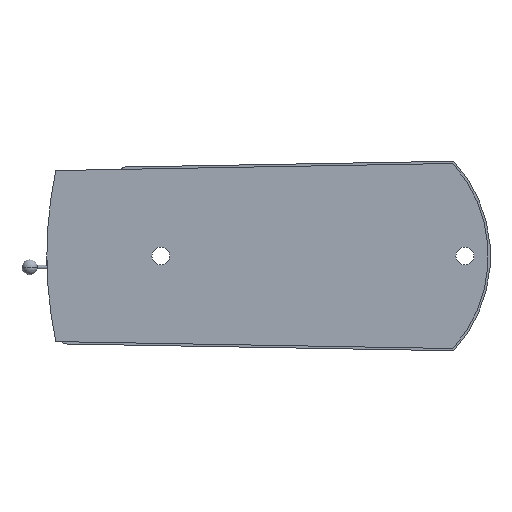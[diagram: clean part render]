
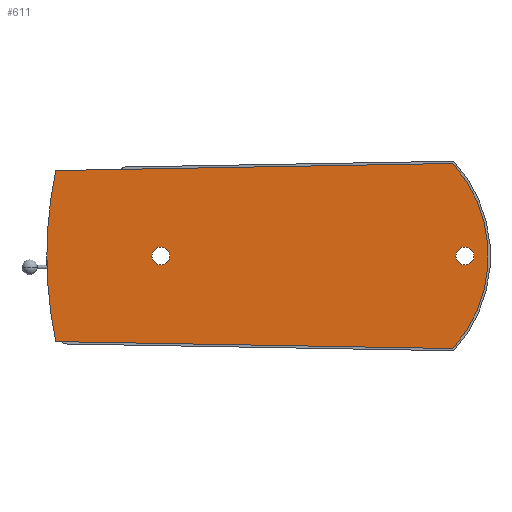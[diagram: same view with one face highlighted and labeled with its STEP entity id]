
A CAD part, left-side view. The second image highlights one B-rep face of the part: STEP entity #611.
In plain terms, the highlighted planar face has unit normal (-1, 0, 0).
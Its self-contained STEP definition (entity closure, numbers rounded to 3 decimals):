
#15 = CIRCLE ( 'NONE', #371, 3.25 ) ;
#23 = CIRCLE ( 'NONE', #242, 3.25 ) ;
#42 = CARTESIAN_POINT ( 'NONE',  ( 0., -160.658, 33.477 ) ) ;
#48 = EDGE_CURVE ( 'NONE', #152, #307, #313, .T. ) ;
#52 = DIRECTION ( 'NONE',  ( 0., -1., 0. ) ) ;
#85 = EDGE_CURVE ( 'NONE', #762, #423, #261, .T. ) ;
#92 = AXIS2_PLACEMENT_3D ( 'NONE', #581, #624, #265 ) ;
#130 = EDGE_CURVE ( 'NONE', #423, #762, #826, .T. ) ;
#144 = CARTESIAN_POINT ( 'NONE',  ( 0., -123.25, 0. ) ) ;
#152 = VERTEX_POINT ( 'NONE', #159 ) ;
#154 = DIRECTION ( 'NONE',  ( 0., -1., 0. ) ) ;
#159 = CARTESIAN_POINT ( 'NONE',  ( 0., -13.75, 0. ) ) ;
#174 = ORIENTED_EDGE ( 'NONE', *, *, #928, .F. ) ;
#190 = DIRECTION ( 'NONE',  ( 0., -1., 0. ) ) ;
#198 = ORIENTED_EDGE ( 'NONE', *, *, #749, .F. ) ;
#205 = DIRECTION ( 'NONE',  ( 1., 0., 0. ) ) ;
#224 = EDGE_CURVE ( 'NONE', #860, #547, #717, .T. ) ;
#235 = DIRECTION ( 'NONE',  ( 1., 0., 0. ) ) ;
#242 = AXIS2_PLACEMENT_3D ( 'NONE', #987, #235, #500 ) ;
#246 = EDGE_LOOP ( 'NONE', ( #977, #695 ) ) ;
#258 = CARTESIAN_POINT ( 'NONE',  ( 0., -163.75, 0. ) ) ;
#261 = CIRCLE ( 'NONE', #480, 3.25 ) ;
#265 = DIRECTION ( 'NONE',  ( 0., -1., 0. ) ) ;
#277 = CARTESIAN_POINT ( 'NONE',  ( 0., -165., 0. ) ) ;
#280 = AXIS2_PLACEMENT_3D ( 'NONE', #258, #431, #190 ) ;
#283 = LINE ( 'NONE', #331, #438 ) ;
#284 = VERTEX_POINT ( 'NONE', #720 ) ;
#307 = VERTEX_POINT ( 'NONE', #845 ) ;
#313 = CIRCLE ( 'NONE', #280, 150. ) ;
#331 = CARTESIAN_POINT ( 'NONE',  ( 0., -16.982, -30.968 ) ) ;
#337 = ORIENTED_EDGE ( 'NONE', *, *, #958, .T. ) ;
#354 = CARTESIAN_POINT ( 'NONE',  ( 0., -163.75, 0. ) ) ;
#364 = CARTESIAN_POINT ( 'NONE',  ( 0., -16.982, -30.968 ) ) ;
#371 = AXIS2_PLACEMENT_3D ( 'NONE', #277, #856, #154 ) ;
#393 = DIRECTION ( 'NONE',  ( 0., -1., 0. ) ) ;
#422 = CARTESIAN_POINT ( 'NONE',  ( 0., -58.25, 0. ) ) ;
#423 = VERTEX_POINT ( 'NONE', #541 ) ;
#431 = DIRECTION ( 'NONE',  ( 1., 0., 0. ) ) ;
#438 = VECTOR ( 'NONE', #506, 1000. ) ;
#466 = ORIENTED_EDGE ( 'NONE', *, *, #548, .T. ) ;
#470 = PLANE ( 'NONE',  #864 ) ;
#475 = AXIS2_PLACEMENT_3D ( 'NONE', #144, #778, #609 ) ;
#480 = AXIS2_PLACEMENT_3D ( 'NONE', #568, #205, #393 ) ;
#488 = EDGE_LOOP ( 'NONE', ( #466, #337 ) ) ;
#492 = CARTESIAN_POINT ( 'NONE',  ( 0., -160.658, 33.477 ) ) ;
#500 = DIRECTION ( 'NONE',  ( 0., -1., 0. ) ) ;
#506 = DIRECTION ( 'NONE',  ( 0., 1., 0.017 ) ) ;
#538 = AXIS2_PLACEMENT_3D ( 'NONE', #354, #950, #696 ) ;
#541 = CARTESIAN_POINT ( 'NONE',  ( 0., -51.75, 0. ) ) ;
#547 = VERTEX_POINT ( 'NONE', #698 ) ;
#548 = EDGE_CURVE ( 'NONE', #284, #934, #23, .T. ) ;
#555 = VERTEX_POINT ( 'NONE', #364 ) ;
#557 = LINE ( 'NONE', #492, #742 ) ;
#568 = CARTESIAN_POINT ( 'NONE',  ( 0., -55., 0. ) ) ;
#569 = DIRECTION ( 'NONE',  ( 1., 0., 0. ) ) ;
#581 = CARTESIAN_POINT ( 'NONE',  ( 0., -55., 0. ) ) ;
#588 = FACE_BOUND ( 'NONE', #246, .T. ) ;
#589 = ORIENTED_EDGE ( 'NONE', *, *, #224, .F. ) ;
#591 = FACE_OUTER_BOUND ( 'NONE', #951, .T. ) ;
#609 = DIRECTION ( 'NONE',  ( 0., -1., 0. ) ) ;
#611 = ADVANCED_FACE ( 'NONE', ( #591, #588, #935 ), #470, .F. ) ;
#624 = DIRECTION ( 'NONE',  ( 1., 0., 0. ) ) ;
#629 = ORIENTED_EDGE ( 'NONE', *, *, #48, .F. ) ;
#695 = ORIENTED_EDGE ( 'NONE', *, *, #85, .T. ) ;
#696 = DIRECTION ( 'NONE',  ( 0., -1., 0. ) ) ;
#698 = CARTESIAN_POINT ( 'NONE',  ( 0., -160.659, -33.476 ) ) ;
#704 = DIRECTION ( 'NONE',  ( 0., -1., 0.018 ) ) ;
#717 = CIRCLE ( 'NONE', #475, 50.2 ) ;
#718 = CARTESIAN_POINT ( 'NONE',  ( 0., -168.25, 0. ) ) ;
#720 = CARTESIAN_POINT ( 'NONE',  ( 0., -161.75, 0. ) ) ;
#742 = VECTOR ( 'NONE', #704, 1000. ) ;
#749 = EDGE_CURVE ( 'NONE', #547, #555, #283, .T. ) ;
#762 = VERTEX_POINT ( 'NONE', #422 ) ;
#778 = DIRECTION ( 'NONE',  ( 1., 0., 0. ) ) ;
#783 = CIRCLE ( 'NONE', #538, 150. ) ;
#797 = EDGE_CURVE ( 'NONE', #555, #152, #783, .T. ) ;
#809 = CARTESIAN_POINT ( 'NONE',  ( 0., -163.75, 0. ) ) ;
#826 = CIRCLE ( 'NONE', #92, 3.25 ) ;
#845 = CARTESIAN_POINT ( 'NONE',  ( 0., -16.971, 30.92 ) ) ;
#856 = DIRECTION ( 'NONE',  ( 1., 0., 0. ) ) ;
#860 = VERTEX_POINT ( 'NONE', #42 ) ;
#864 = AXIS2_PLACEMENT_3D ( 'NONE', #809, #569, #52 ) ;
#874 = ORIENTED_EDGE ( 'NONE', *, *, #797, .F. ) ;
#928 = EDGE_CURVE ( 'NONE', #307, #860, #557, .T. ) ;
#934 = VERTEX_POINT ( 'NONE', #718 ) ;
#935 = FACE_BOUND ( 'NONE', #488, .T. ) ;
#950 = DIRECTION ( 'NONE',  ( 1., 0., 0. ) ) ;
#951 = EDGE_LOOP ( 'NONE', ( #874, #198, #589, #174, #629 ) ) ;
#958 = EDGE_CURVE ( 'NONE', #934, #284, #15, .T. ) ;
#977 = ORIENTED_EDGE ( 'NONE', *, *, #130, .T. ) ;
#987 = CARTESIAN_POINT ( 'NONE',  ( 0., -165., 0. ) ) ;
